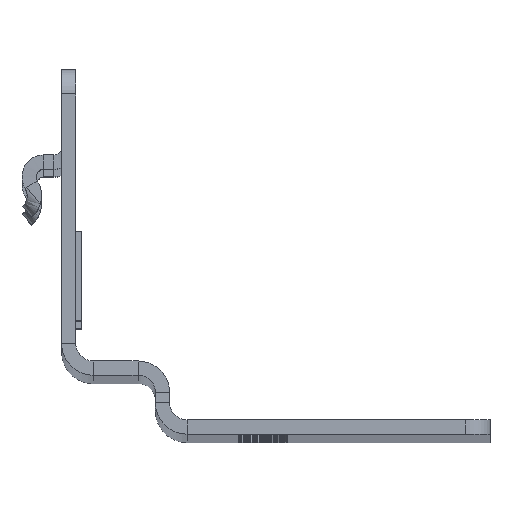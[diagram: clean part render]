
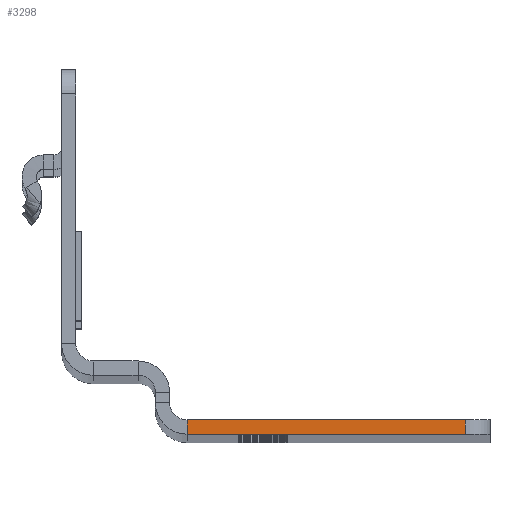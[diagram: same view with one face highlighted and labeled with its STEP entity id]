
A CAD part, top view. The second image highlights one B-rep face of the part: STEP entity #3298.
In plain terms, the highlighted planar face has unit normal (0, 0, 1) as drawn and (-1, 0, 0) by its records, which use the part's own axes.
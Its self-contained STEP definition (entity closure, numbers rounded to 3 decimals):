
#206 = ORIENTED_EDGE ( 'NONE', *, *, #10190, .T. ) ;
#758 = EDGE_CURVE ( 'NONE', #3307, #914, #6169, .T. ) ;
#914 = VERTEX_POINT ( 'NONE', #6364 ) ;
#1288 = CARTESIAN_POINT ( 'NONE',  ( -312.5, 0., 43.104 ) ) ;
#1291 = LINE ( 'NONE', #4716, #3183 ) ;
#1592 = EDGE_CURVE ( 'NONE', #4399, #7688, #8142, .T. ) ;
#1764 = VECTOR ( 'NONE', #6227, 1000. ) ;
#1964 = DIRECTION ( 'NONE',  ( 1., 0., 0. ) ) ;
#2762 = CARTESIAN_POINT ( 'NONE',  ( -312.5, 11.659, -8.026 ) ) ;
#2866 = EDGE_CURVE ( 'NONE', #3307, #4399, #4164, .T. ) ;
#3143 = AXIS2_PLACEMENT_3D ( 'NONE', #2762, #1964, #4393 ) ;
#3151 = CARTESIAN_POINT ( 'NONE',  ( -312.5, 1.829, 43.104 ) ) ;
#3183 = VECTOR ( 'NONE', #7857, 1000. ) ;
#3298 = ADVANCED_FACE ( 'NONE', ( #4665 ), #9134, .F. ) ;
#3307 = VERTEX_POINT ( 'NONE', #8342 ) ;
#3364 = ORIENTED_EDGE ( 'NONE', *, *, #2866, .T. ) ;
#3696 = ORIENTED_EDGE ( 'NONE', *, *, #758, .F. ) ;
#3977 = DIRECTION ( 'NONE',  ( 0., 0., -1. ) ) ;
#4164 = LINE ( 'NONE', #5433, #1764 ) ;
#4393 = DIRECTION ( 'NONE',  ( 0., 0., -1. ) ) ;
#4399 = VERTEX_POINT ( 'NONE', #8629 ) ;
#4665 = FACE_OUTER_BOUND ( 'NONE', #5699, .T. ) ;
#4716 = CARTESIAN_POINT ( 'NONE',  ( -312.5, 1.829, 4.064 ) ) ;
#4807 = CARTESIAN_POINT ( 'NONE',  ( -312.5, 1.829, 4.064 ) ) ;
#5157 = ORIENTED_EDGE ( 'NONE', *, *, #1592, .T. ) ;
#5433 = CARTESIAN_POINT ( 'NONE',  ( -312.5, 1.829, 39.929 ) ) ;
#5699 = EDGE_LOOP ( 'NONE', ( #3696, #3364, #5157, #206 ) ) ;
#6169 = LINE ( 'NONE', #1288, #8041 ) ;
#6227 = DIRECTION ( 'NONE',  ( 0., 1., 0. ) ) ;
#6364 = CARTESIAN_POINT ( 'NONE',  ( -312.5, 0., 4.064 ) ) ;
#7688 = VERTEX_POINT ( 'NONE', #4807 ) ;
#7857 = DIRECTION ( 'NONE',  ( 0., -1., 0. ) ) ;
#8041 = VECTOR ( 'NONE', #8461, 1000. ) ;
#8142 = LINE ( 'NONE', #3151, #9743 ) ;
#8342 = CARTESIAN_POINT ( 'NONE',  ( -312.5, 0., 39.929 ) ) ;
#8461 = DIRECTION ( 'NONE',  ( 0., 0., -1. ) ) ;
#8629 = CARTESIAN_POINT ( 'NONE',  ( -312.5, 1.829, 39.929 ) ) ;
#9134 = PLANE ( 'NONE',  #3143 ) ;
#9743 = VECTOR ( 'NONE', #3977, 1000. ) ;
#10190 = EDGE_CURVE ( 'NONE', #7688, #914, #1291, .T. ) ;
